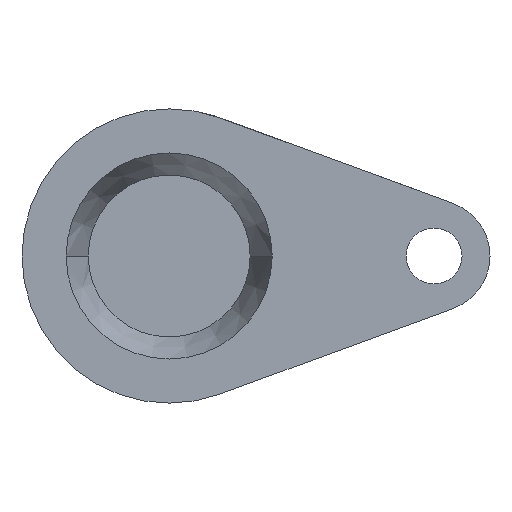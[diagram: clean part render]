
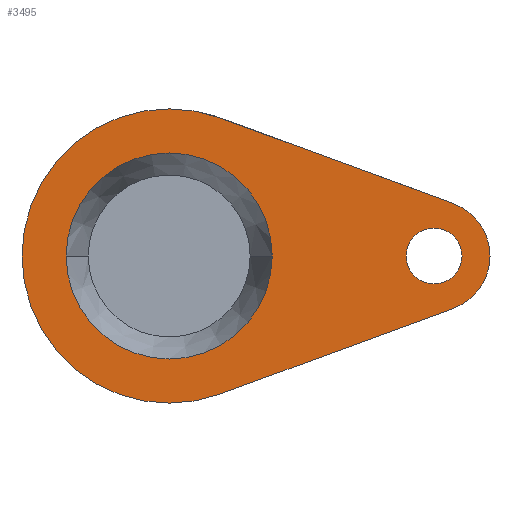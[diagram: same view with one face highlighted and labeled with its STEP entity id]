
A CAD part, front view. The second image highlights one B-rep face of the part: STEP entity #3495.
In plain terms, the highlighted planar face has unit normal (0, -1, 0).
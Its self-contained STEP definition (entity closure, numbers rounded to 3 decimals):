
#46 = DIRECTION ( 'NONE',  ( 0., 1., 0. ) ) ;
#107 = DIRECTION ( 'NONE',  ( 0.939, 0., -0.344 ) ) ;
#189 = CIRCLE ( 'NONE', #3631, 9.5 ) ;
#201 = DIRECTION ( 'NONE',  ( -1., 0., 0. ) ) ;
#256 = LINE ( 'NONE', #1319, #3940 ) ;
#277 = DIRECTION ( 'NONE',  ( -1., 0., 0. ) ) ;
#508 = VECTOR ( 'NONE', #107, 1000. ) ;
#550 = CIRCLE ( 'NONE', #3604, 35. ) ;
#609 = AXIS2_PLACEMENT_3D ( 'NONE', #4735, #3640, #3251 ) ;
#625 = DIRECTION ( 'NONE',  ( -0.939, 0., -0.344 ) ) ;
#689 = DIRECTION ( 'NONE',  ( 1., 0., 0. ) ) ;
#799 = VERTEX_POINT ( 'NONE', #1058 ) ;
#841 = CIRCLE ( 'NONE', #609, 19. ) ;
#867 = CARTESIAN_POINT ( 'NONE',  ( 99.5, -33., 0. ) ) ;
#874 = DIRECTION ( 'NONE',  ( -1., 0., 0. ) ) ;
#897 = ORIENTED_EDGE ( 'NONE', *, *, #2895, .T. ) ;
#977 = FACE_OUTER_BOUND ( 'NONE', #3949, .T. ) ;
#1058 = CARTESIAN_POINT ( 'NONE',  ( 17.222, -33., -46.94 ) ) ;
#1121 = VERTEX_POINT ( 'NONE', #2322 ) ;
#1170 = VERTEX_POINT ( 'NONE', #2811 ) ;
#1319 = CARTESIAN_POINT ( 'NONE',  ( 17.222, -33., -46.94 ) ) ;
#1359 = DIRECTION ( 'NONE',  ( 0., 1., 0. ) ) ;
#1372 = CIRCLE ( 'NONE', #4094, 9.5 ) ;
#1440 = EDGE_CURVE ( 'NONE', #3966, #2657, #841, .T. ) ;
#1509 = ORIENTED_EDGE ( 'NONE', *, *, #2993, .T. ) ;
#1526 = CARTESIAN_POINT ( 'NONE',  ( 90., -33., 0. ) ) ;
#1610 = CARTESIAN_POINT ( 'NONE',  ( 90., -33., 0. ) ) ;
#1631 = ORIENTED_EDGE ( 'NONE', *, *, #3726, .T. ) ;
#1731 = AXIS2_PLACEMENT_3D ( 'NONE', #4714, #3960, #4760 ) ;
#2137 = VERTEX_POINT ( 'NONE', #4780 ) ;
#2170 = PLANE ( 'NONE',  #1731 ) ;
#2322 = CARTESIAN_POINT ( 'NONE',  ( 35., -33., 0. ) ) ;
#2354 = CARTESIAN_POINT ( 'NONE',  ( 96.544, -33., 17.837 ) ) ;
#2356 = DIRECTION ( 'NONE',  ( -1., 0., 0. ) ) ;
#2427 = EDGE_LOOP ( 'NONE', ( #1631, #3732 ) ) ;
#2473 = ORIENTED_EDGE ( 'NONE', *, *, #4843, .F. ) ;
#2570 = EDGE_CURVE ( 'NONE', #3039, #4548, #189, .T. ) ;
#2657 = VERTEX_POINT ( 'NONE', #4201 ) ;
#2681 = EDGE_CURVE ( 'NONE', #1170, #1121, #2926, .T. ) ;
#2700 = AXIS2_PLACEMENT_3D ( 'NONE', #3333, #4042, #689 ) ;
#2721 = EDGE_CURVE ( 'NONE', #4565, #3966, #4122, .T. ) ;
#2783 = CARTESIAN_POINT ( 'NONE',  ( 17.222, -33., 46.94 ) ) ;
#2799 = DIRECTION ( 'NONE',  ( 0., 1., 0. ) ) ;
#2810 = EDGE_CURVE ( 'NONE', #2137, #799, #256, .T. ) ;
#2811 = CARTESIAN_POINT ( 'NONE',  ( -35., -33., 0. ) ) ;
#2847 = CIRCLE ( 'NONE', #3627, 19. ) ;
#2895 = EDGE_CURVE ( 'NONE', #4565, #799, #4796, .T. ) ;
#2926 = CIRCLE ( 'NONE', #3009, 35. ) ;
#2993 = EDGE_CURVE ( 'NONE', #4548, #3039, #1372, .T. ) ;
#3006 = ORIENTED_EDGE ( 'NONE', *, *, #2721, .F. ) ;
#3009 = AXIS2_PLACEMENT_3D ( 'NONE', #3101, #4226, #874 ) ;
#3039 = VERTEX_POINT ( 'NONE', #867 ) ;
#3101 = CARTESIAN_POINT ( 'NONE',  ( 0., -33., 0. ) ) ;
#3230 = FACE_BOUND ( 'NONE', #3442, .T. ) ;
#3244 = CARTESIAN_POINT ( 'NONE',  ( 90., -33., 0. ) ) ;
#3251 = DIRECTION ( 'NONE',  ( -1., 0., 0. ) ) ;
#3333 = CARTESIAN_POINT ( 'NONE',  ( 0., -33., 0. ) ) ;
#3442 = EDGE_LOOP ( 'NONE', ( #1509, #4641 ) ) ;
#3468 = CARTESIAN_POINT ( 'NONE',  ( 17.222, -33., 46.94 ) ) ;
#3495 = ADVANCED_FACE ( 'NONE', ( #4027, #3230, #977 ), #2170, .T. ) ;
#3536 = CARTESIAN_POINT ( 'NONE',  ( 0., -33., 0. ) ) ;
#3604 = AXIS2_PLACEMENT_3D ( 'NONE', #3536, #2799, #201 ) ;
#3605 = DIRECTION ( 'NONE',  ( -1., 0., 0. ) ) ;
#3627 = AXIS2_PLACEMENT_3D ( 'NONE', #1610, #1359, #3605 ) ;
#3631 = AXIS2_PLACEMENT_3D ( 'NONE', #1526, #46, #2356 ) ;
#3633 = DIRECTION ( 'NONE',  ( 0., 1., 0. ) ) ;
#3640 = DIRECTION ( 'NONE',  ( 0., 1., 0. ) ) ;
#3726 = EDGE_CURVE ( 'NONE', #1121, #1170, #550, .T. ) ;
#3732 = ORIENTED_EDGE ( 'NONE', *, *, #2681, .T. ) ;
#3931 = ORIENTED_EDGE ( 'NONE', *, *, #2810, .F. ) ;
#3940 = VECTOR ( 'NONE', #625, 1000. ) ;
#3949 = EDGE_LOOP ( 'NONE', ( #897, #3931, #2473, #4200, #3006 ) ) ;
#3960 = DIRECTION ( 'NONE',  ( 0., -1., 0. ) ) ;
#3966 = VERTEX_POINT ( 'NONE', #2354 ) ;
#4027 = FACE_BOUND ( 'NONE', #2427, .T. ) ;
#4042 = DIRECTION ( 'NONE',  ( 0., -1., 0. ) ) ;
#4094 = AXIS2_PLACEMENT_3D ( 'NONE', #3244, #3633, #277 ) ;
#4122 = LINE ( 'NONE', #3468, #508 ) ;
#4200 = ORIENTED_EDGE ( 'NONE', *, *, #1440, .F. ) ;
#4201 = CARTESIAN_POINT ( 'NONE',  ( 109., -33., 0. ) ) ;
#4207 = CARTESIAN_POINT ( 'NONE',  ( 80.5, -33., 0. ) ) ;
#4226 = DIRECTION ( 'NONE',  ( 0., 1., 0. ) ) ;
#4548 = VERTEX_POINT ( 'NONE', #4207 ) ;
#4565 = VERTEX_POINT ( 'NONE', #2783 ) ;
#4641 = ORIENTED_EDGE ( 'NONE', *, *, #2570, .T. ) ;
#4714 = CARTESIAN_POINT ( 'NONE',  ( 50., -33., 0. ) ) ;
#4735 = CARTESIAN_POINT ( 'NONE',  ( 90., -33., 0. ) ) ;
#4760 = DIRECTION ( 'NONE',  ( 1., 0., 0. ) ) ;
#4780 = CARTESIAN_POINT ( 'NONE',  ( 96.544, -33., -17.837 ) ) ;
#4796 = CIRCLE ( 'NONE', #2700, 50. ) ;
#4843 = EDGE_CURVE ( 'NONE', #2657, #2137, #2847, .T. ) ;
